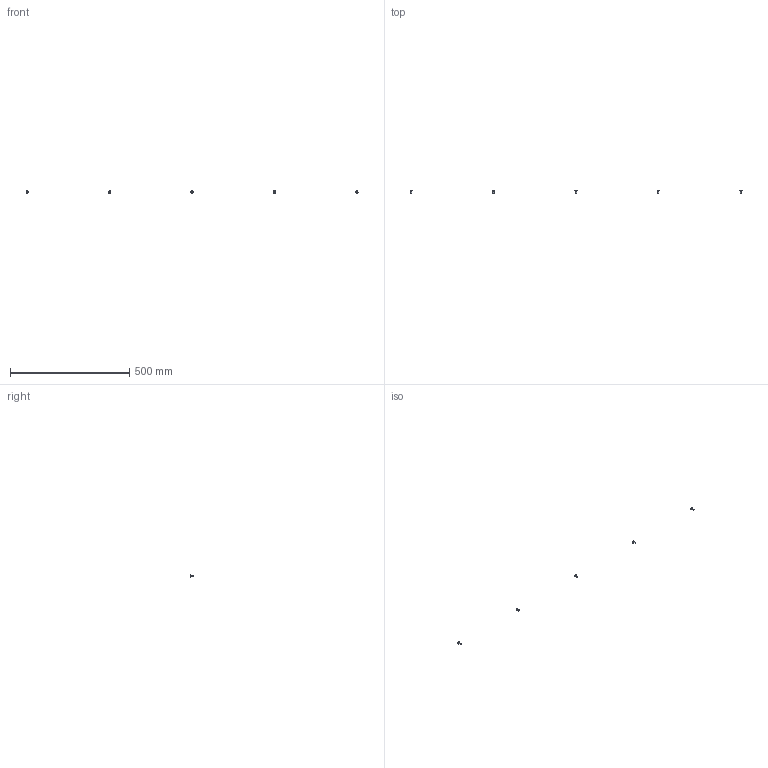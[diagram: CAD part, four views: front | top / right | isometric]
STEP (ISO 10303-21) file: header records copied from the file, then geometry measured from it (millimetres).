
FILE_DESCRIPTION(/* description */ (''),/* implementation_level */ '2;1');
FILE_NAME(/* name */ 'X-D84F~1',/* time_stamp */ '2014-02-14T19:47:22+01:00',/* author */ (''),/* organization */ (''),/* preprocessor_version */ 'ST-DEVELOPER v14',/* originating_system */ '',/* authorisation */ '');
FILE_SCHEMA (('AUTOMOTIVE_DESIGN'));
Length unit declared in the file: millimetre
Products named in the file (2): Document; screw DIN7991-like, sunk, M5x12
Assembly tree (5 placements, depth 2):
  Document
    screw DIN7991-like, sunk, M5x12  x5
Bounding box: 1390 x 12 x 9.99 mm (x, y, z)
Volume: 1594.1 mm3; surface area: 1782.5 mm2
Topology: 5 solids, 5 shells, 120 faces, 270 edges, 155 vertices
Faces by surface type: plane 70, bspline 50
Entity records: 1378 total; most frequent: CARTESIAN_POINT 603, B_SPLINE_CURVE_WITH_KNOTS 126, ORIENTED_EDGE 104, PCURVE 104, DEFINITIONAL_REPRESENTATION 104, SURFACE_CURVE 52, EDGE_CURVE 52, VERTEX_POINT 31
